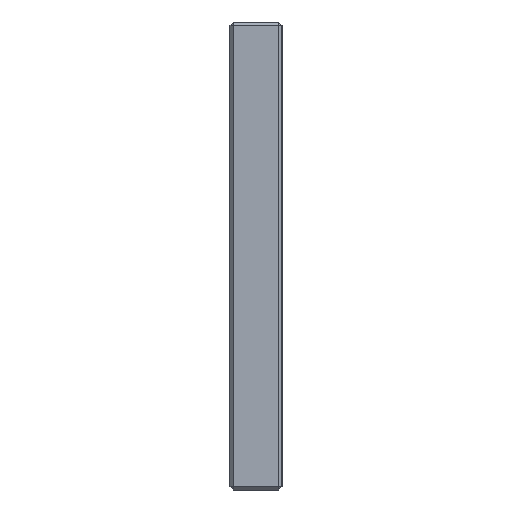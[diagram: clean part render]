
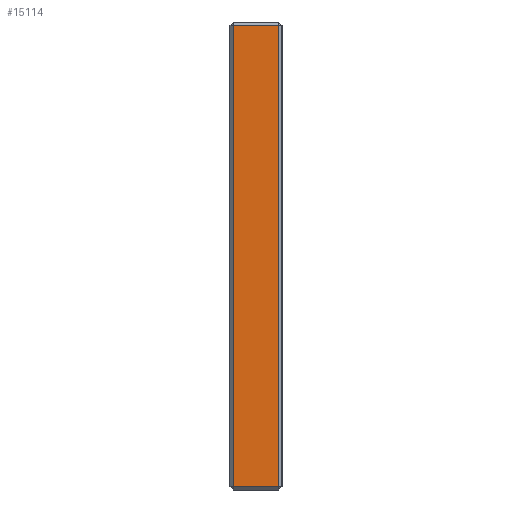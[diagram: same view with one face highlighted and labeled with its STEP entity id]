
A CAD part, left-side view. The second image highlights one B-rep face of the part: STEP entity #15114.
In plain terms, the highlighted planar face has unit normal (-1, 0, 0).
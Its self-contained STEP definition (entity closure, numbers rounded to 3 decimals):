
#3720=DIRECTION('',(0.,0.,1.));
#3721=VECTOR('',#3720,444.);
#3722=CARTESIAN_POINT('',(-450.,22.,-222.));
#3723=LINE('',#3722,#3721);
#3724=DIRECTION('',(0.,-1.,0.));
#3725=VECTOR('',#3724,44.);
#3726=CARTESIAN_POINT('',(-450.,22.,222.));
#3727=LINE('',#3726,#3725);
#3728=DIRECTION('',(0.,0.,-1.));
#3729=VECTOR('',#3728,444.);
#3730=CARTESIAN_POINT('',(-450.,-22.,222.));
#3731=LINE('',#3730,#3729);
#3732=DIRECTION('',(0.,-1.,0.));
#3733=VECTOR('',#3732,44.);
#3734=CARTESIAN_POINT('',(-450.,22.,-222.));
#3735=LINE('',#3734,#3733);
#10467=CARTESIAN_POINT('',(-450.,22.,-222.));
#10468=CARTESIAN_POINT('',(-450.,22.,222.));
#10469=VERTEX_POINT('',#10467);
#10470=VERTEX_POINT('',#10468);
#10509=CARTESIAN_POINT('',(-450.,-22.,-222.));
#10510=VERTEX_POINT('',#10509);
#10511=CARTESIAN_POINT('',(-450.,-22.,222.));
#10512=VERTEX_POINT('',#10511);
#15100=CARTESIAN_POINT('',(-450.,-25.,-225.));
#15101=DIRECTION('',(-1.,0.,0.));
#15102=DIRECTION('',(0.,0.,1.));
#15103=AXIS2_PLACEMENT_3D('',#15100,#15101,#15102);
#15104=PLANE('',#15103);
#15105=ORIENTED_EDGE('',*,*,#15090,.T.);
#15107=ORIENTED_EDGE('',*,*,#15106,.T.);
#15109=ORIENTED_EDGE('',*,*,#15108,.T.);
#15111=ORIENTED_EDGE('',*,*,#15110,.F.);
#15112=EDGE_LOOP('',(#15105,#15107,#15109,#15111));
#15113=FACE_OUTER_BOUND('',#15112,.F.);
#15114=ADVANCED_FACE('',(#15113),#15104,.T.);
#15090=EDGE_CURVE('',#10469,#10470,#3723,.T.);
#15106=EDGE_CURVE('',#10470,#10512,#3727,.T.);
#15108=EDGE_CURVE('',#10512,#10510,#3731,.T.);
#15110=EDGE_CURVE('',#10469,#10510,#3735,.T.);
